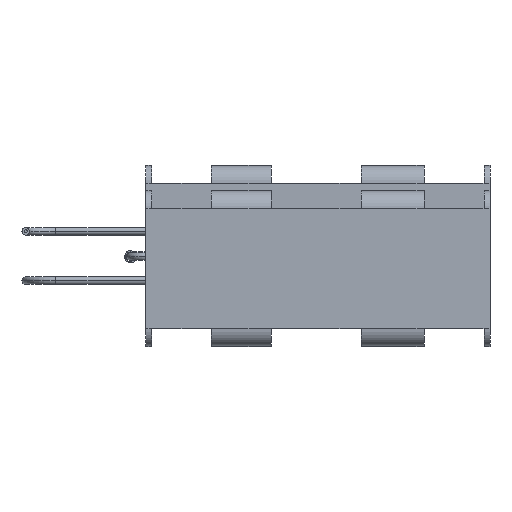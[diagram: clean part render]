
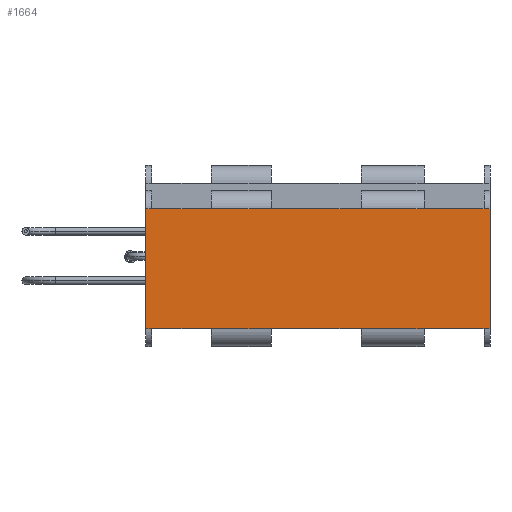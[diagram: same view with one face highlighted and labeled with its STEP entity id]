
A CAD part, front view. The second image highlights one B-rep face of the part: STEP entity #1664.
In plain terms, the highlighted planar face has unit normal (0, -1, 0) as drawn and (0, 1, 0) by its records, which use the part's own axes.
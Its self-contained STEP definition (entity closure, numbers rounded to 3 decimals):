
#5 = LINE ( 'NONE', #2300, #1794 ) ;
#16 = DIRECTION ( 'NONE',  ( -1., 0., 0. ) ) ;
#32 = ORIENTED_EDGE ( 'NONE', *, *, #2827, .T. ) ;
#84 = CARTESIAN_POINT ( 'NONE',  ( 11., 8.3, -10. ) ) ;
#87 = VERTEX_POINT ( 'NONE', #2106 ) ;
#92 = EDGE_CURVE ( 'NONE', #1041, #189, #1553, .T. ) ;
#142 = ORIENTED_EDGE ( 'NONE', *, *, #2475, .T. ) ;
#169 = CARTESIAN_POINT ( 'NONE',  ( 11., 8.3, -10. ) ) ;
#173 = DIRECTION ( 'NONE',  ( 1., 0., 0. ) ) ;
#189 = VERTEX_POINT ( 'NONE', #907 ) ;
#224 = CARTESIAN_POINT ( 'NONE',  ( 0., 8.3, 13. ) ) ;
#233 = CARTESIAN_POINT ( 'NONE',  ( 57.5, 8.3, -10. ) ) ;
#247 = CARTESIAN_POINT ( 'NONE',  ( 57.5, 8.3, 13. ) ) ;
#278 = VERTEX_POINT ( 'NONE', #417 ) ;
#355 = ORIENTED_EDGE ( 'NONE', *, *, #1592, .T. ) ;
#371 = EDGE_CURVE ( 'NONE', #2712, #1225, #1733, .T. ) ;
#404 = EDGE_LOOP ( 'NONE', ( #2392, #1009, #3185, #1261, #2763, #32, #1028, #355, #142, #3067, #3144, #2774, #2969, #2354, #2716, #2948 ) ) ;
#412 = CARTESIAN_POINT ( 'NONE',  ( 57.5, 8.3, 13. ) ) ;
#417 = CARTESIAN_POINT ( 'NONE',  ( 46.5, 8.3, -10. ) ) ;
#484 = CARTESIAN_POINT ( 'NONE',  ( 36., 8.3, 10. ) ) ;
#537 = CARTESIAN_POINT ( 'NONE',  ( 36., 8.3, 10. ) ) ;
#542 = VECTOR ( 'NONE', #2819, 1000. ) ;
#670 = LINE ( 'NONE', #537, #542 ) ;
#676 = DIRECTION ( 'NONE',  ( -1., 0., 0. ) ) ;
#682 = VECTOR ( 'NONE', #173, 1000. ) ;
#689 = DIRECTION ( 'NONE',  ( 0., 0., 1. ) ) ;
#692 = EDGE_CURVE ( 'NONE', #2712, #3187, #1245, .T. ) ;
#748 = VERTEX_POINT ( 'NONE', #1909 ) ;
#756 = DIRECTION ( 'NONE',  ( -1., 0., 0. ) ) ;
#804 = CARTESIAN_POINT ( 'NONE',  ( 11., 8.3, 10. ) ) ;
#819 = LINE ( 'NONE', #2557, #2920 ) ;
#878 = EDGE_CURVE ( 'NONE', #2646, #748, #2201, .T. ) ;
#897 = EDGE_CURVE ( 'NONE', #985, #3187, #2277, .T. ) ;
#903 = CARTESIAN_POINT ( 'NONE',  ( 0., 8.3, -10. ) ) ;
#904 = VERTEX_POINT ( 'NONE', #2940 ) ;
#907 = CARTESIAN_POINT ( 'NONE',  ( 46.5, 8.3, 10. ) ) ;
#952 = CARTESIAN_POINT ( 'NONE',  ( 36., 8.3, -10. ) ) ;
#985 = VERTEX_POINT ( 'NONE', #1252 ) ;
#1009 = ORIENTED_EDGE ( 'NONE', *, *, #2228, .T. ) ;
#1017 = VECTOR ( 'NONE', #2641, 1000. ) ;
#1028 = ORIENTED_EDGE ( 'NONE', *, *, #2042, .T. ) ;
#1041 = VERTEX_POINT ( 'NONE', #484 ) ;
#1170 = CARTESIAN_POINT ( 'NONE',  ( 56.5, 8.3, -10. ) ) ;
#1185 = LINE ( 'NONE', #224, #2526 ) ;
#1221 = CARTESIAN_POINT ( 'NONE',  ( 21., 8.3, -10. ) ) ;
#1225 = VERTEX_POINT ( 'NONE', #2381 ) ;
#1245 = LINE ( 'NONE', #2172, #2320 ) ;
#1252 = CARTESIAN_POINT ( 'NONE',  ( 0., 8.3, 10. ) ) ;
#1261 = ORIENTED_EDGE ( 'NONE', *, *, #2996, .T. ) ;
#1479 = DIRECTION ( 'NONE',  ( 0., 0., 1. ) ) ;
#1490 = VECTOR ( 'NONE', #676, 1000. ) ;
#1500 = EDGE_CURVE ( 'NONE', #189, #87, #1873, .T. ) ;
#1513 = EDGE_CURVE ( 'NONE', #2537, #2431, #2613, .T. ) ;
#1536 = VECTOR ( 'NONE', #1479, 1000. ) ;
#1553 = LINE ( 'NONE', #2910, #1017 ) ;
#1554 = VECTOR ( 'NONE', #2873, 1000. ) ;
#1592 = EDGE_CURVE ( 'NONE', #904, #2946, #5, .T. ) ;
#1597 = CARTESIAN_POINT ( 'NONE',  ( 57.5, 8.3, -10. ) ) ;
#1644 = DIRECTION ( 'NONE',  ( -1., 0., 0. ) ) ;
#1664 = ADVANCED_FACE ( 'NONE', ( #3054 ), #1779, .F. ) ;
#1733 = LINE ( 'NONE', #1993, #1926 ) ;
#1779 = PLANE ( 'NONE',  #2331 ) ;
#1794 = VECTOR ( 'NONE', #756, 1000. ) ;
#1799 = VECTOR ( 'NONE', #2680, 1000. ) ;
#1873 = LINE ( 'NONE', #2751, #682 ) ;
#1909 = CARTESIAN_POINT ( 'NONE',  ( 57.5, 8.3, 10. ) ) ;
#1926 = VECTOR ( 'NONE', #2498, 1000. ) ;
#1987 = VERTEX_POINT ( 'NONE', #84 ) ;
#1993 = CARTESIAN_POINT ( 'NONE',  ( 57.5, 8.3, 10. ) ) ;
#2031 = VERTEX_POINT ( 'NONE', #1170 ) ;
#2042 = EDGE_CURVE ( 'NONE', #1987, #904, #2494, .T. ) ;
#2106 = CARTESIAN_POINT ( 'NONE',  ( 56.5, 8.3, 10. ) ) ;
#2114 = CARTESIAN_POINT ( 'NONE',  ( 57.5, 8.3, 10. ) ) ;
#2153 = LINE ( 'NONE', #233, #3249 ) ;
#2172 = CARTESIAN_POINT ( 'NONE',  ( 11., 8.3, 10. ) ) ;
#2201 = LINE ( 'NONE', #412, #1536 ) ;
#2228 = EDGE_CURVE ( 'NONE', #2646, #2031, #2153, .T. ) ;
#2232 = DIRECTION ( 'NONE',  ( -1., 0., 0. ) ) ;
#2242 = CARTESIAN_POINT ( 'NONE',  ( 57.5, 8.3, 10. ) ) ;
#2259 = VECTOR ( 'NONE', #2481, 1000. ) ;
#2277 = LINE ( 'NONE', #2242, #1799 ) ;
#2299 = CARTESIAN_POINT ( 'NONE',  ( 36., 8.3, -10. ) ) ;
#2300 = CARTESIAN_POINT ( 'NONE',  ( 57.5, 8.3, -10. ) ) ;
#2320 = VECTOR ( 'NONE', #2635, 1000. ) ;
#2331 = AXIS2_PLACEMENT_3D ( 'NONE', #247, #3027, #3048 ) ;
#2354 = ORIENTED_EDGE ( 'NONE', *, *, #92, .T. ) ;
#2381 = CARTESIAN_POINT ( 'NONE',  ( 21., 8.3, 10. ) ) ;
#2392 = ORIENTED_EDGE ( 'NONE', *, *, #878, .F. ) ;
#2431 = VERTEX_POINT ( 'NONE', #1221 ) ;
#2475 = EDGE_CURVE ( 'NONE', #2946, #985, #1185, .T. ) ;
#2481 = DIRECTION ( 'NONE',  ( 1., 0., 0. ) ) ;
#2494 = LINE ( 'NONE', #169, #1490 ) ;
#2498 = DIRECTION ( 'NONE',  ( 1., 0., 0. ) ) ;
#2526 = VECTOR ( 'NONE', #689, 1000. ) ;
#2537 = VERTEX_POINT ( 'NONE', #2299 ) ;
#2557 = CARTESIAN_POINT ( 'NONE',  ( 57.5, 8.3, -10. ) ) ;
#2573 = VECTOR ( 'NONE', #2967, 1000. ) ;
#2599 = CARTESIAN_POINT ( 'NONE',  ( 1., 8.3, 10. ) ) ;
#2613 = LINE ( 'NONE', #952, #2573 ) ;
#2635 = DIRECTION ( 'NONE',  ( -1., 0., 0. ) ) ;
#2638 = CARTESIAN_POINT ( 'NONE',  ( 57.5, 8.3, -10. ) ) ;
#2640 = LINE ( 'NONE', #2742, #2259 ) ;
#2641 = DIRECTION ( 'NONE',  ( 1., 0., 0. ) ) ;
#2646 = VERTEX_POINT ( 'NONE', #1597 ) ;
#2654 = EDGE_CURVE ( 'NONE', #1041, #1225, #670, .T. ) ;
#2680 = DIRECTION ( 'NONE',  ( 1., 0., 0. ) ) ;
#2681 = LINE ( 'NONE', #2114, #1554 ) ;
#2712 = VERTEX_POINT ( 'NONE', #804 ) ;
#2716 = ORIENTED_EDGE ( 'NONE', *, *, #1500, .T. ) ;
#2742 = CARTESIAN_POINT ( 'NONE',  ( 46.5, 8.3, -10. ) ) ;
#2751 = CARTESIAN_POINT ( 'NONE',  ( 46.5, 8.3, 10. ) ) ;
#2763 = ORIENTED_EDGE ( 'NONE', *, *, #1513, .T. ) ;
#2774 = ORIENTED_EDGE ( 'NONE', *, *, #371, .T. ) ;
#2819 = DIRECTION ( 'NONE',  ( -1., 0., 0. ) ) ;
#2827 = EDGE_CURVE ( 'NONE', #2431, #1987, #2839, .T. ) ;
#2839 = LINE ( 'NONE', #2638, #2963 ) ;
#2873 = DIRECTION ( 'NONE',  ( 1., 0., 0. ) ) ;
#2910 = CARTESIAN_POINT ( 'NONE',  ( 57.5, 8.3, 10. ) ) ;
#2920 = VECTOR ( 'NONE', #2232, 1000. ) ;
#2940 = CARTESIAN_POINT ( 'NONE',  ( 1., 8.3, -10. ) ) ;
#2946 = VERTEX_POINT ( 'NONE', #903 ) ;
#2948 = ORIENTED_EDGE ( 'NONE', *, *, #3153, .T. ) ;
#2963 = VECTOR ( 'NONE', #1644, 1000. ) ;
#2967 = DIRECTION ( 'NONE',  ( -1., 0., 0. ) ) ;
#2969 = ORIENTED_EDGE ( 'NONE', *, *, #2654, .F. ) ;
#2996 = EDGE_CURVE ( 'NONE', #278, #2537, #819, .T. ) ;
#3027 = DIRECTION ( 'NONE',  ( 0., -1., 0. ) ) ;
#3048 = DIRECTION ( 'NONE',  ( 0., 0., -1. ) ) ;
#3050 = EDGE_CURVE ( 'NONE', #278, #2031, #2640, .T. ) ;
#3054 = FACE_OUTER_BOUND ( 'NONE', #404, .T. ) ;
#3067 = ORIENTED_EDGE ( 'NONE', *, *, #897, .T. ) ;
#3144 = ORIENTED_EDGE ( 'NONE', *, *, #692, .F. ) ;
#3153 = EDGE_CURVE ( 'NONE', #87, #748, #2681, .T. ) ;
#3185 = ORIENTED_EDGE ( 'NONE', *, *, #3050, .F. ) ;
#3187 = VERTEX_POINT ( 'NONE', #2599 ) ;
#3249 = VECTOR ( 'NONE', #16, 1000. ) ;
